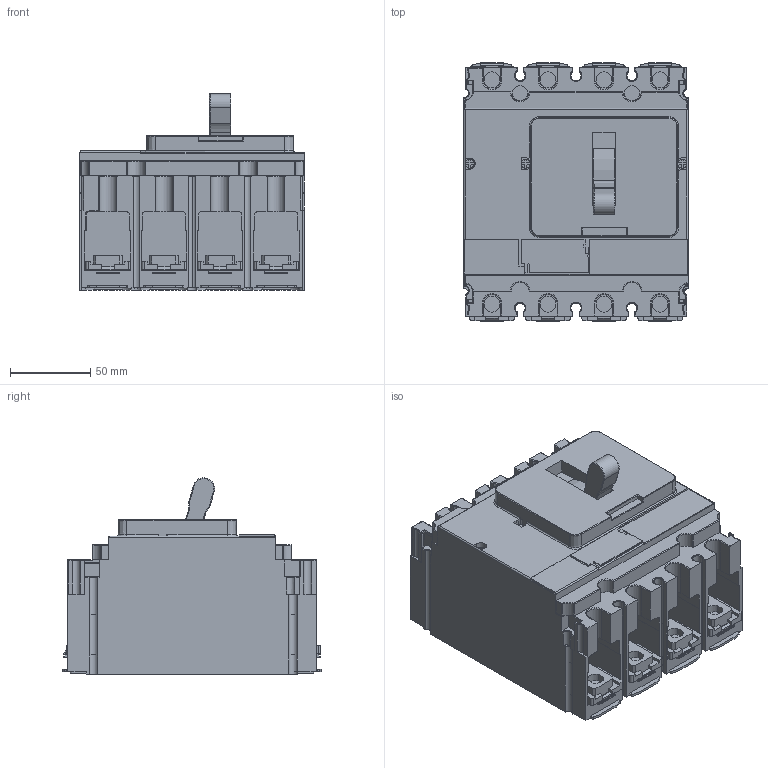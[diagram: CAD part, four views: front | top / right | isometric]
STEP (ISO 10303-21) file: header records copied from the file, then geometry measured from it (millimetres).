
FILE_DESCRIPTION((''),'2;1');
FILE_NAME('C25V46E250_3D-SIMPLFIED_ASM','2020-12-14T15:16:21',('user-pc'),('Schneider-Electric'),'CREO PARAMETRIC BY PTC INC, 2018300','CREO PARAMETRIC BY PTC INC, 2018300','');
FILE_SCHEMA(('CONFIG_CONTROL_DESIGN'));
Length unit declared in the file: millimetre
Products named in the file (2): C25V46E250_3D-SIMPLFIED; C25V46E250_3D-SIMPLFIED_ASM
Assembly tree (1 placements, depth 2):
  C25V46E250_3D-SIMPLFIED_ASM
    C25V46E250_3D-SIMPLFIED
Bounding box: 140 x 161.11 x 122.52 mm (x, y, z)
Volume: 1570472.4 mm3; surface area: 179713.2 mm2
Topology: 1 solids, 1 shells, 1406 faces, 3797 edges, 2437 vertices
Faces by surface type: plane 846, cylinder 420, torus 64, bspline 38, extrusion 30, sphere 8
Entity records: 47440 total; most frequent: CARTESIAN_POINT 11934, ORIENTED_EDGE 7606, DIRECTION 7096, EDGE_CURVE 3803, VECTOR 2800, LINE 2770, VERTEX_POINT 2443, AXIS2_PLACEMENT_3D 2148
